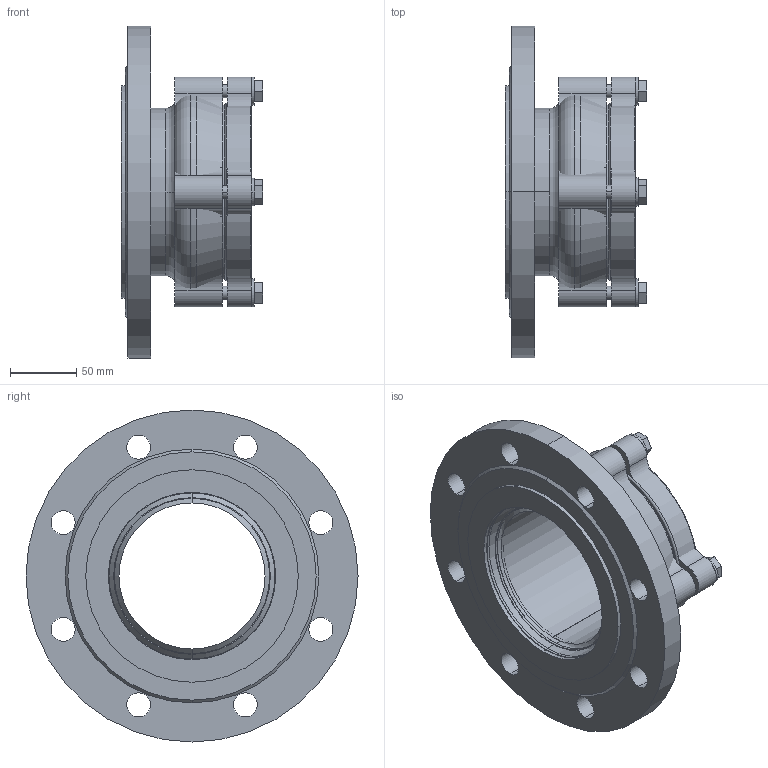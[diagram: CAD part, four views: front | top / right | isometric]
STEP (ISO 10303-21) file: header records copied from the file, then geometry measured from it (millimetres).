
FILE_DESCRIPTION(('STEP AP214'),'1');
FILE_NAME('U:/VDI-Daten/7200-(0400)/7200_PN16_DN125_110.STP','2012-06-15T09:48:13',(' '),(' '),'Spatial InterOp 3D',' ',' ');
FILE_SCHEMA(('automotive_design'));
Length unit declared in the file: millimetre
Products named in the file (26): 3D-Objekt
Bounding box: 106.4 x 250 x 250 mm (x, y, z)
Volume: 1256610.4 mm3; surface area: 342000.9 mm2
Topology: 26 solids, 26 shells, 198 faces, 434 edges, 288 vertices
Faces by surface type: plane 100, cylinder 80, torus 12, cone 6
Entity records: 7750 total; most frequent: DIRECTION 1086, CARTESIAN_POINT 946, ORIENTED_EDGE 868, EDGE_CURVE 434, AXIS2_PLACEMENT_3D 428, VERTEX_POINT 288, LINE 230, VECTOR 230
